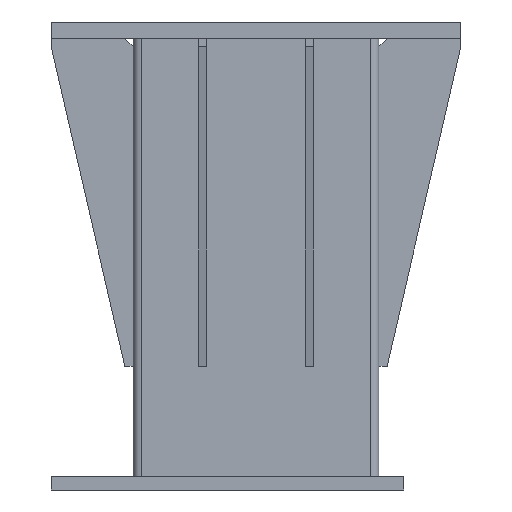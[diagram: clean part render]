
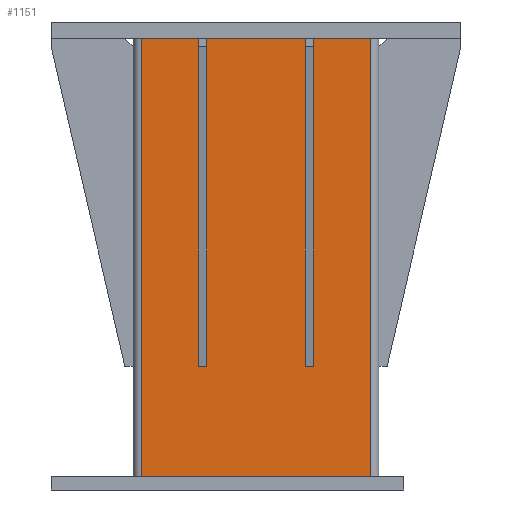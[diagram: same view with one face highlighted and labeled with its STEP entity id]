
A CAD part, left-side view. The second image highlights one B-rep face of the part: STEP entity #1151.
In plain terms, the highlighted planar face has unit normal (-1, 0, 0).
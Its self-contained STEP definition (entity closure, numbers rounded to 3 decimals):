
#65 = ORIENTED_EDGE ( 'NONE', *, *, #3858, .T. ) ;
#90 = ORIENTED_EDGE ( 'NONE', *, *, #826, .F. ) ;
#112 = EDGE_CURVE ( 'NONE', #265, #2305, #2507, .T. ) ;
#153 = DIRECTION ( 'NONE',  ( 0., -1., 0. ) ) ;
#265 = VERTEX_POINT ( 'NONE', #673 ) ;
#673 = CARTESIAN_POINT ( 'NONE',  ( 10266.641, -2109.205, 16. ) ) ;
#729 = DIRECTION ( 'NONE',  ( 0., 0., -1. ) ) ;
#804 = EDGE_LOOP ( 'NONE', ( #1662, #90, #3954, #65 ) ) ;
#826 = EDGE_CURVE ( 'NONE', #3570, #2305, #2928, .T. ) ;
#1046 = EDGE_CURVE ( 'NONE', #1804, #3570, #1954, .T. ) ;
#1151 = ADVANCED_FACE ( 'NONE', ( #1619 ), #1551, .F. ) ;
#1280 = CARTESIAN_POINT ( 'NONE',  ( 10266.641, -2389.205, 16. ) ) ;
#1462 = VECTOR ( 'NONE', #729, 1000. ) ;
#1526 = CARTESIAN_POINT ( 'NONE',  ( 10266.641, -2109.205, 551. ) ) ;
#1551 = PLANE ( 'NONE',  #4097 ) ;
#1619 = FACE_OUTER_BOUND ( 'NONE', #804, .T. ) ;
#1662 = ORIENTED_EDGE ( 'NONE', *, *, #112, .T. ) ;
#1804 = VERTEX_POINT ( 'NONE', #4474 ) ;
#1918 = VECTOR ( 'NONE', #3368, 1000. ) ;
#1954 = LINE ( 'NONE', #1526, #3785 ) ;
#2249 = DIRECTION ( 'NONE',  ( 0., 0., -1. ) ) ;
#2280 = CARTESIAN_POINT ( 'NONE',  ( 10266.641, -2109.205, 551. ) ) ;
#2305 = VERTEX_POINT ( 'NONE', #1280 ) ;
#2324 = CARTESIAN_POINT ( 'NONE',  ( 10266.641, -2389.205, 551. ) ) ;
#2507 = LINE ( 'NONE', #4475, #1918 ) ;
#2928 = LINE ( 'NONE', #3137, #4011 ) ;
#3137 = CARTESIAN_POINT ( 'NONE',  ( 10266.641, -2389.205, 551. ) ) ;
#3154 = DIRECTION ( 'NONE',  ( 0., 0., -1. ) ) ;
#3368 = DIRECTION ( 'NONE',  ( 0., -1., 0. ) ) ;
#3570 = VERTEX_POINT ( 'NONE', #2324 ) ;
#3785 = VECTOR ( 'NONE', #153, 1000. ) ;
#3858 = EDGE_CURVE ( 'NONE', #1804, #265, #3967, .T. ) ;
#3954 = ORIENTED_EDGE ( 'NONE', *, *, #1046, .F. ) ;
#3967 = LINE ( 'NONE', #4413, #1462 ) ;
#4011 = VECTOR ( 'NONE', #3154, 1000. ) ;
#4097 = AXIS2_PLACEMENT_3D ( 'NONE', #2280, #4318, #2249 ) ;
#4318 = DIRECTION ( 'NONE',  ( 1., 0., 0. ) ) ;
#4413 = CARTESIAN_POINT ( 'NONE',  ( 10266.641, -2109.205, 551. ) ) ;
#4474 = CARTESIAN_POINT ( 'NONE',  ( 10266.641, -2109.205, 551. ) ) ;
#4475 = CARTESIAN_POINT ( 'NONE',  ( 10266.641, -2109.205, 16. ) ) ;
